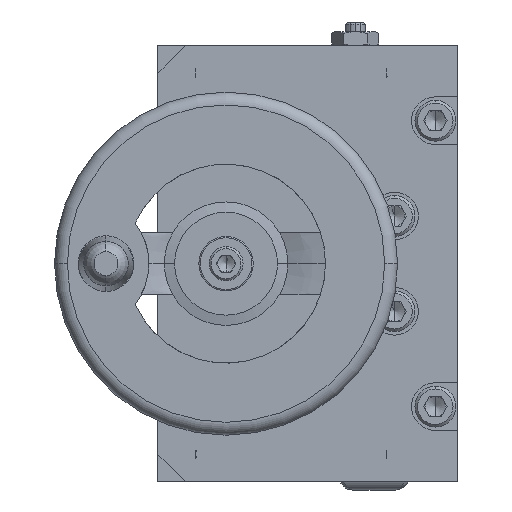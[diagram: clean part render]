
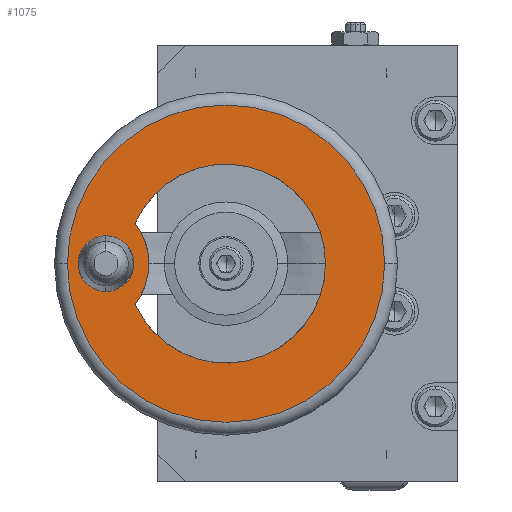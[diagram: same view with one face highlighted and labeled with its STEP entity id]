
A CAD part, left-side view. The second image highlights one B-rep face of the part: STEP entity #1075.
In plain terms, the highlighted planar face has unit normal (-1, 0, 0) as drawn and (0, 1, 0) by its records, which use the part's own axes.
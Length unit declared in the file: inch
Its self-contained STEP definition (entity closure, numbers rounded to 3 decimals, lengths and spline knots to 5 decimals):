
#22 = AXIS2_PLACEMENT_3D ( 'NONE', #17277, #17278, #17279 ) ;
#32 = CIRCLE ( 'NONE', #22, 0.25591 ) ;
#70 = AXIS2_PLACEMENT_3D ( 'NONE', #17156, #17157, #17158 ) ;
#73 = CIRCLE ( 'NONE', #70, 1.45669 ) ;
#77 = AXIS2_PLACEMENT_3D ( 'NONE', #17144, #17145, #17146 ) ;
#79 = CIRCLE ( 'NONE', #77, 0.91339 ) ;
#118 = AXIS2_PLACEMENT_3D ( 'NONE', #17012, #17013, #17014 ) ;
#120 = CIRCLE ( 'NONE', #118, 0.61417 ) ;
#123 = AXIS2_PLACEMENT_3D ( 'NONE', #16996, #16997, #16998 ) ;
#126 = CIRCLE ( 'NONE', #123, 0.61417 ) ;
#140 = AXIS2_PLACEMENT_3D ( 'NONE', #16935, #16936, #16937 ) ;
#142 = AXIS2_PLACEMENT_3D ( 'NONE', #16931, #16932, #16933 ) ;
#145 = AXIS2_PLACEMENT_3D ( 'NONE', #16928, #16929, #16930 ) ;
#146 = CIRCLE ( 'NONE', #140, 0.91339 ) ;
#149 = CIRCLE ( 'NONE', #142, 0.25591 ) ;
#152 = CIRCLE ( 'NONE', #145, 1.45669 ) ;
#1075 = ADVANCED_FACE ( 'NONE', ( #12958, #9263, #9308 ), #12963, .T. ) ;
#1982 = EDGE_CURVE ( 'NONE', #13990, #13989, #152, .T. ) ;
#1983 = EDGE_CURVE ( 'NONE', #14021, #14012, #149, .T. ) ;
#1984 = EDGE_CURVE ( 'NONE', #13965, #13985, #146, .T. ) ;
#1996 = EDGE_CURVE ( 'NONE', #13963, #13984, #126, .T. ) ;
#2001 = EDGE_CURVE ( 'NONE', #13965, #13963, #120, .T. ) ;
#2029 = EDGE_CURVE ( 'NONE', #13985, #13984, #79, .T. ) ;
#2033 = EDGE_CURVE ( 'NONE', #13989, #13990, #73, .T. ) ;
#2062 = EDGE_CURVE ( 'NONE', #14012, #14021, #32, .T. ) ;
#4125 = AXIS2_PLACEMENT_3D ( 'NONE', #12961, #9309, #9310 ) ;
#4542 = ORIENTED_EDGE ( 'NONE', *, *, #1982, .T. ) ;
#4544 = ORIENTED_EDGE ( 'NONE', *, *, #2033, .T. ) ;
#4545 = ORIENTED_EDGE ( 'NONE', *, *, #1984, .F. ) ;
#4547 = ORIENTED_EDGE ( 'NONE', *, *, #2029, .F. ) ;
#4550 = ORIENTED_EDGE ( 'NONE', *, *, #1996, .T. ) ;
#4551 = ORIENTED_EDGE ( 'NONE', *, *, #2001, .T. ) ;
#4552 = ORIENTED_EDGE ( 'NONE', *, *, #1983, .F. ) ;
#4553 = ORIENTED_EDGE ( 'NONE', *, *, #2062, .F. ) ;
#9263 = FACE_BOUND ( 'NONE', #10887, .T. ) ;
#9308 = FACE_OUTER_BOUND ( 'NONE', #10889, .T. ) ;
#9309 = DIRECTION ( 'NONE',  ( 0., 1., 0. ) ) ;
#9310 = DIRECTION ( 'NONE',  ( 0., 0., 1. ) ) ;
#10886 = EDGE_LOOP ( 'NONE', ( #4553, #4552 ) ) ;
#10887 = EDGE_LOOP ( 'NONE', ( #4551, #4550, #4547, #4545 ) ) ;
#10889 = EDGE_LOOP ( 'NONE', ( #4544, #4542 ) ) ;
#12958 = FACE_BOUND ( 'NONE', #10886, .T. ) ;
#12961 = CARTESIAN_POINT ( 'NONE',  ( 0.91339, 1.41732, 0. ) ) ;
#12963 = PLANE ( 'NONE',  #4125 ) ;
#13963 = VERTEX_POINT ( 'NONE', #22063 ) ;
#13965 = VERTEX_POINT ( 'NONE', #22065 ) ;
#13984 = VERTEX_POINT ( 'NONE', #22084 ) ;
#13985 = VERTEX_POINT ( 'NONE', #22085 ) ;
#13989 = VERTEX_POINT ( 'NONE', #22089 ) ;
#13990 = VERTEX_POINT ( 'NONE', #22090 ) ;
#14012 = VERTEX_POINT ( 'NONE', #22112 ) ;
#14021 = VERTEX_POINT ( 'NONE', #22121 ) ;
#16928 = CARTESIAN_POINT ( 'NONE',  ( 0., 1.41732, 0. ) ) ;
#16929 = DIRECTION ( 'NONE',  ( 0., 1., 0. ) ) ;
#16930 = DIRECTION ( 'NONE',  ( 0., 0., 1. ) ) ;
#16931 = CARTESIAN_POINT ( 'NONE',  ( 0., 1.41732, -1.10236 ) ) ;
#16932 = DIRECTION ( 'NONE',  ( 0., 1., 0. ) ) ;
#16933 = DIRECTION ( 'NONE',  ( 0., 0., 1. ) ) ;
#16935 = CARTESIAN_POINT ( 'NONE',  ( 0., 1.41732, 0. ) ) ;
#16936 = DIRECTION ( 'NONE',  ( 0., 1., 0. ) ) ;
#16937 = DIRECTION ( 'NONE',  ( 0., 0., 1. ) ) ;
#16996 = CARTESIAN_POINT ( 'NONE',  ( 0., 1.41732, -1.32283 ) ) ;
#16997 = DIRECTION ( 'NONE',  ( 0., 1., 0. ) ) ;
#16998 = DIRECTION ( 'NONE',  ( 1., 0., 0. ) ) ;
#17012 = CARTESIAN_POINT ( 'NONE',  ( 0., 1.41732, -1.32283 ) ) ;
#17013 = DIRECTION ( 'NONE',  ( 0., 1., 0. ) ) ;
#17014 = DIRECTION ( 'NONE',  ( 1., 0., 0. ) ) ;
#17144 = CARTESIAN_POINT ( 'NONE',  ( 0., 1.41732, 0. ) ) ;
#17145 = DIRECTION ( 'NONE',  ( 0., 1., 0. ) ) ;
#17146 = DIRECTION ( 'NONE',  ( 0., 0., 1. ) ) ;
#17156 = CARTESIAN_POINT ( 'NONE',  ( 0., 1.41732, 0. ) ) ;
#17157 = DIRECTION ( 'NONE',  ( 0., 1., 0. ) ) ;
#17158 = DIRECTION ( 'NONE',  ( 0., 0., 1. ) ) ;
#17277 = CARTESIAN_POINT ( 'NONE',  ( 0., 1.41732, -1.10236 ) ) ;
#17278 = DIRECTION ( 'NONE',  ( 0., 1., 0. ) ) ;
#17279 = DIRECTION ( 'NONE',  ( 0., 0., 1. ) ) ;
#22063 = CARTESIAN_POINT ( 'NONE',  ( 0., 1.41732, -0.70866 ) ) ;
#22065 = CARTESIAN_POINT ( 'NONE',  ( -0.37205, 1.41732, -0.83418 ) ) ;
#22084 = CARTESIAN_POINT ( 'NONE',  ( 0.37205, 1.41732, -0.83418 ) ) ;
#22085 = CARTESIAN_POINT ( 'NONE',  ( 0., 1.41732, 0.91339 ) ) ;
#22089 = CARTESIAN_POINT ( 'NONE',  ( 0., 1.41732, 1.45669 ) ) ;
#22090 = CARTESIAN_POINT ( 'NONE',  ( 0., 1.41732, -1.45669 ) ) ;
#22112 = CARTESIAN_POINT ( 'NONE',  ( -0.25591, 1.41732, -1.10236 ) ) ;
#22121 = CARTESIAN_POINT ( 'NONE',  ( 0.25591, 1.41732, -1.10236 ) ) ;
